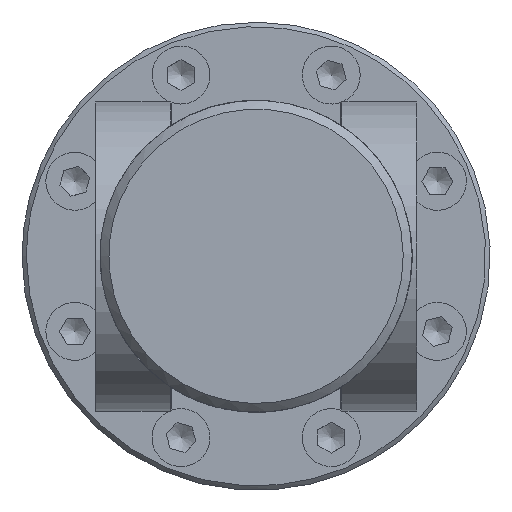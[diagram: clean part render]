
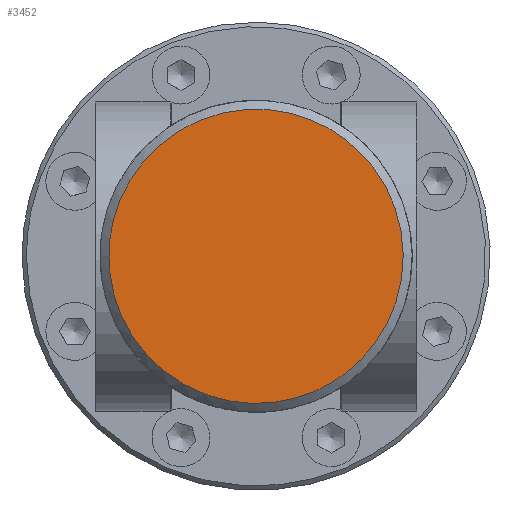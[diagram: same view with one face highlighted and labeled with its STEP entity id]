
A CAD part, left-side view. The second image highlights one B-rep face of the part: STEP entity #3452.
In plain terms, the highlighted free-form (B-spline) face has degree [1, 1] with [2, 2] control points.
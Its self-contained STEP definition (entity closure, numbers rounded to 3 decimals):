
#3426=CARTESIAN_POINT('F1',(5.,-36.3,
   -36.3));
#3427=CARTESIAN_POINT('F1',(5.,36.3,
   -36.3));
#3428=CARTESIAN_POINT('F1',(5.,-36.3,
   36.3));
#3429=CARTESIAN_POINT('F1',(5.,36.3,
   36.3));
#3430=QUASI_UNIFORM_SURFACE('F1',1,1,((#3426,#3428),(#3427,#3429)),
   .PLANE_SURF.,.F.,.F.,.U.);
#3431=CARTESIAN_POINT('V3',(5.,33.,0.0)
   );
#3432=VERTEX_POINT('V3',#3431);
#3433=CARTESIAN_POINT('E8',(5.,33.,0.0)
   );
#3434=CARTESIAN_POINT('E8',(5.,33.,
   57.158));
#3435=CARTESIAN_POINT('E8',(5.,-16.5,
   28.579));
#3436=CARTESIAN_POINT('E8',(5.,-66.0,0.)
   );
#3437=CARTESIAN_POINT('E8',(5.,-16.5,
   -28.579));
#3438=CARTESIAN_POINT('E8',(5.,33.,
   -57.158));
#3439=CARTESIAN_POINT('E8',(5.,33.,0.0)
   );
#3447=(BOUNDED_CURVE()B_SPLINE_CURVE(2,(#3433,#3434,#3435,#3436,
   #3437,#3438,#3439),.CIRCULAR_ARC.,.T.,.U.)
   B_SPLINE_CURVE_WITH_KNOTS((3,2,2,3),(0.0,0.333,
   0.667,1.0),.UNSPECIFIED.)CURVE()
   GEOMETRIC_REPRESENTATION_ITEM()RATIONAL_B_SPLINE_CURVE((1.0,
   0.5,1.0,0.5,1.0,0.5,1.0)
   )REPRESENTATION_ITEM('E8'));
#3448=EDGE_CURVE('E8',#3432,#3432,#3447,.T.);
#3449=ORIENTED_EDGE('E8',*,*,#3448,.F.);
#3450=EDGE_LOOP('F1',(#3449));
#3451=FACE_OUTER_BOUND('F1',#3450,.F.);
#3452=ADVANCED_FACE('F1',(#3451),#3430,.T.);
